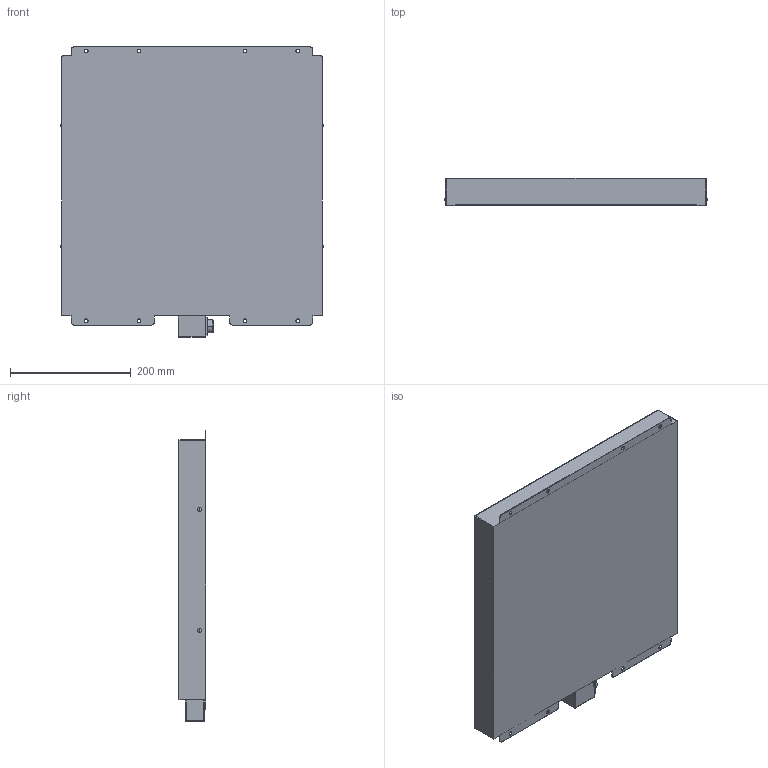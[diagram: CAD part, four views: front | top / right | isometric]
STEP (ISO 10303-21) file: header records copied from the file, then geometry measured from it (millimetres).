
FILE_DESCRIPTION (( 'STEP AP203' ), '1' );
FILE_NAME ('HDSBPA-400x400_-24.STEP', '2023-04-18T05:20:00', ( '' ), ( '' ), 'SwSTEP 2.0', 'SolidWorks 2022', '' );
FILE_SCHEMA (( 'CONFIG_CONTROL_DESIGN' ));
Length unit declared in the file: millimetre
Products named in the file (1): HDSBPA-400x400_-24
Bounding box: 433.8 x 45 x 480 mm (x, y, z)
Volume: 8224704.7 mm3; surface area: 475052.1 mm2
Topology: 1 solids, 1 shells, 122 faces, 314 edges, 186 vertices
Faces by surface type: cylinder 58, plane 42, sphere 20, cone 2
Entity records: 3601 total; most frequent: DIRECTION 658, CARTESIAN_POINT 587, ORIENTED_EDGE 572, EDGE_CURVE 286, AXIS2_PLACEMENT_3D 249, VERTEX_POINT 178, LINE 160, VECTOR 160
